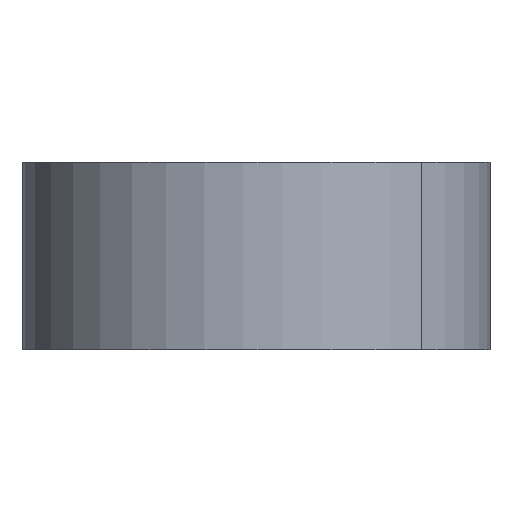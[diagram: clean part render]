
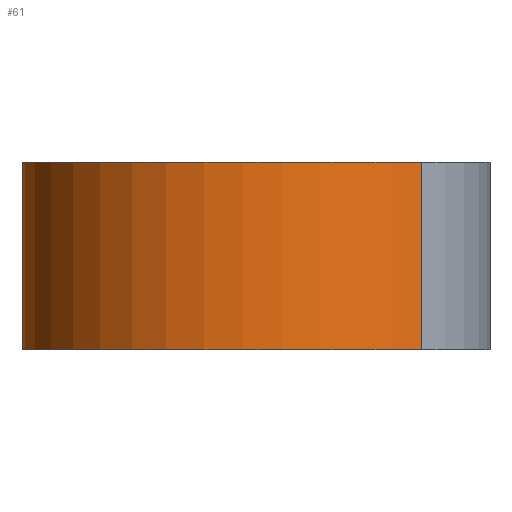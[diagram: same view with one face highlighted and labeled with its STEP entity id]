
A CAD part, front view. The second image highlights one B-rep face of the part: STEP entity #61.
In plain terms, the highlighted cylindrical face has radius 2.5 mm (diameter 5 mm), a partial arc.
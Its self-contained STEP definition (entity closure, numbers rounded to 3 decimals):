
#61=ADVANCED_FACE('',(#87),#88,.T.);
#87=FACE_OUTER_BOUND('',#116,.T.);
#88=CYLINDRICAL_SURFACE('',#117,2.5);
#116=EDGE_LOOP('',(#199,#200,#201,#202));
#117=AXIS2_PLACEMENT_3D('',#203,#204,#205);
#199=ORIENTED_EDGE('',*,*,#220,.T.);
#200=ORIENTED_EDGE('',*,*,#243,.T.);
#201=ORIENTED_EDGE('',*,*,#246,.F.);
#202=ORIENTED_EDGE('',*,*,#249,.T.);
#203=CARTESIAN_POINT('',(42.381,-21.631,17.3));
#204=DIRECTION('',(0.0,0.0,1.0));
#205=DIRECTION('',(0.707,-0.707,0.0));
#220=EDGE_CURVE('',#250,#251,#252,.T.);
#243=EDGE_CURVE('',#251,#290,#292,.T.);
#246=EDGE_CURVE('',#294,#290,#296,.T.);
#249=EDGE_CURVE('',#294,#250,#299,.T.);
#250=VERTEX_POINT('',#300);
#251=VERTEX_POINT('',#301);
#252=LINE('',#302,#303);
#290=VERTEX_POINT('',#350);
#292=CIRCLE('',#353,2.5);
#294=VERTEX_POINT('',#355);
#296=LINE('',#358,#359);
#299=CIRCLE('',#363,2.5);
#300=CARTESIAN_POINT('',(44.148,-23.399,17.3));
#301=CARTESIAN_POINT('',(44.148,-23.399,19.3));
#302=CARTESIAN_POINT('',(44.148,-23.399,17.3));
#303=VECTOR('',#364,1.0);
#350=CARTESIAN_POINT('',(39.881,-21.631,19.3));
#353=AXIS2_PLACEMENT_3D('',#411,#412,#413);
#355=CARTESIAN_POINT('',(39.881,-21.631,17.3));
#358=CARTESIAN_POINT('',(39.881,-21.631,17.3));
#359=VECTOR('',#418,0.35);
#363=AXIS2_PLACEMENT_3D('',#423,#424,#425);
#364=DIRECTION('',(0.0,0.0,1.0));
#411=CARTESIAN_POINT('',(42.381,-21.631,19.3));
#412=DIRECTION('',(0.0,-0.0,-1.0));
#413=DIRECTION('',(0.707,-0.707,0.0));
#418=DIRECTION('',(0.0,0.0,1.0));
#423=CARTESIAN_POINT('',(42.381,-21.631,17.3));
#424=DIRECTION('',(0.0,0.0,1.0));
#425=DIRECTION('',(0.707,-0.707,0.0));
